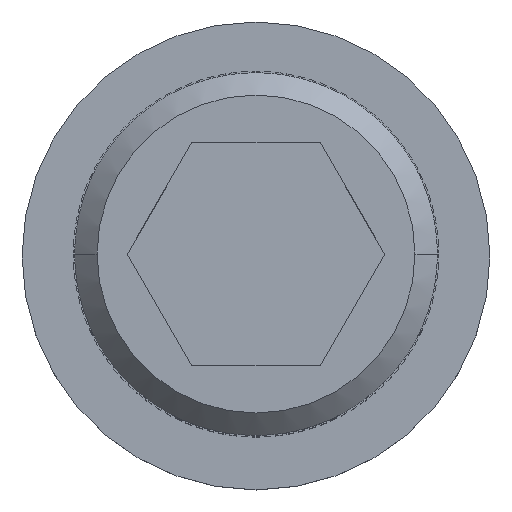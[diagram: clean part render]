
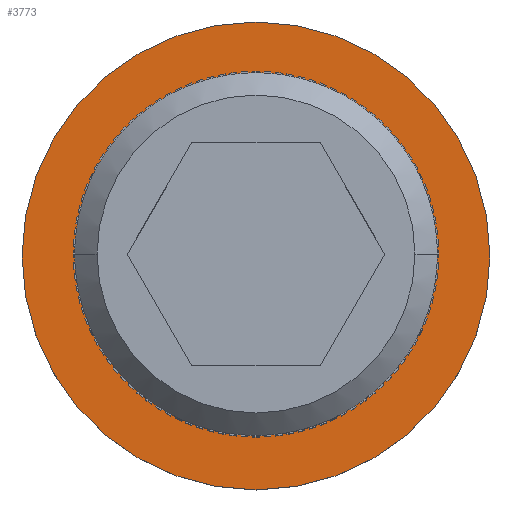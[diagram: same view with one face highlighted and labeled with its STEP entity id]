
A CAD part, top view. The second image highlights one B-rep face of the part: STEP entity #3773.
In plain terms, the highlighted planar face has unit normal (0, 0, 1) as drawn and (0, 1, 0) by its records, which use the part's own axes.
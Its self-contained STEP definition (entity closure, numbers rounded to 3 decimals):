
#262 = ORIENTED_EDGE ( 'NONE', *, *, #12039, .T. ) ;
#403 = DIRECTION ( 'NONE',  ( 0., 1., 0. ) ) ;
#1490 = CARTESIAN_POINT ( 'NONE',  ( 0., 2., 0. ) ) ;
#2022 = EDGE_LOOP ( 'NONE', ( #12719, #262 ) ) ;
#2311 = FACE_BOUND ( 'NONE', #13868, .T. ) ;
#2474 = CARTESIAN_POINT ( 'NONE',  ( 0., 2., 0. ) ) ;
#2484 = EDGE_CURVE ( 'NONE', #9757, #15901, #11609, .T. ) ;
#2546 = AXIS2_PLACEMENT_3D ( 'NONE', #10760, #403, #4205 ) ;
#3767 = CARTESIAN_POINT ( 'NONE',  ( 0., 2., 0. ) ) ;
#3773 = ADVANCED_FACE ( 'NONE', ( #3908, #2311 ), #16614, .T. ) ;
#3908 = FACE_OUTER_BOUND ( 'NONE', #2022, .T. ) ;
#4205 = DIRECTION ( 'NONE',  ( 0., 0., 1. ) ) ;
#5285 = DIRECTION ( 'NONE',  ( 0., 0., 1. ) ) ;
#5411 = AXIS2_PLACEMENT_3D ( 'NONE', #3767, #16553, #5285 ) ;
#5705 = AXIS2_PLACEMENT_3D ( 'NONE', #2474, #10139, #8957 ) ;
#6626 = DIRECTION ( 'NONE',  ( 0., 1., 0. ) ) ;
#6922 = EDGE_CURVE ( 'NONE', #15901, #9757, #14800, .T. ) ;
#8957 = DIRECTION ( 'NONE',  ( 0., 0., 1. ) ) ;
#9025 = CARTESIAN_POINT ( 'NONE',  ( 0., 2., -10.5 ) ) ;
#9757 = VERTEX_POINT ( 'NONE', #12904 ) ;
#10139 = DIRECTION ( 'NONE',  ( 0., 1., 0. ) ) ;
#10216 = VERTEX_POINT ( 'NONE', #9025 ) ;
#10760 = CARTESIAN_POINT ( 'NONE',  ( 0., 2., 0. ) ) ;
#10871 = CIRCLE ( 'NONE', #2546, 10.5 ) ;
#11102 = AXIS2_PLACEMENT_3D ( 'NONE', #1490, #6626, #11750 ) ;
#11294 = EDGE_CURVE ( 'NONE', #10216, #11436, #15947, .T. ) ;
#11436 = VERTEX_POINT ( 'NONE', #16596 ) ;
#11609 = CIRCLE ( 'NONE', #5705, 5.25 ) ;
#11728 = DIRECTION ( 'NONE',  ( 0., 0., 1. ) ) ;
#11750 = DIRECTION ( 'NONE',  ( 0., 0., 1. ) ) ;
#11836 = ORIENTED_EDGE ( 'NONE', *, *, #2484, .F. ) ;
#12039 = EDGE_CURVE ( 'NONE', #11436, #10216, #10871, .T. ) ;
#12719 = ORIENTED_EDGE ( 'NONE', *, *, #11294, .T. ) ;
#12904 = CARTESIAN_POINT ( 'NONE',  ( 0., 2., 5.25 ) ) ;
#13400 = CARTESIAN_POINT ( 'NONE',  ( 0., 2., -5.25 ) ) ;
#13868 = EDGE_LOOP ( 'NONE', ( #15781, #11836 ) ) ;
#14800 = CIRCLE ( 'NONE', #5411, 5.25 ) ;
#15680 = DIRECTION ( 'NONE',  ( 0., 1., 0. ) ) ;
#15781 = ORIENTED_EDGE ( 'NONE', *, *, #6922, .F. ) ;
#15788 = AXIS2_PLACEMENT_3D ( 'NONE', #15845, #15680, #11728 ) ;
#15845 = CARTESIAN_POINT ( 'NONE',  ( 0., 2., 0. ) ) ;
#15901 = VERTEX_POINT ( 'NONE', #13400 ) ;
#15947 = CIRCLE ( 'NONE', #11102, 10.5 ) ;
#16553 = DIRECTION ( 'NONE',  ( 0., 1., 0. ) ) ;
#16596 = CARTESIAN_POINT ( 'NONE',  ( 0., 2., 10.5 ) ) ;
#16614 = PLANE ( 'NONE',  #15788 ) ;
